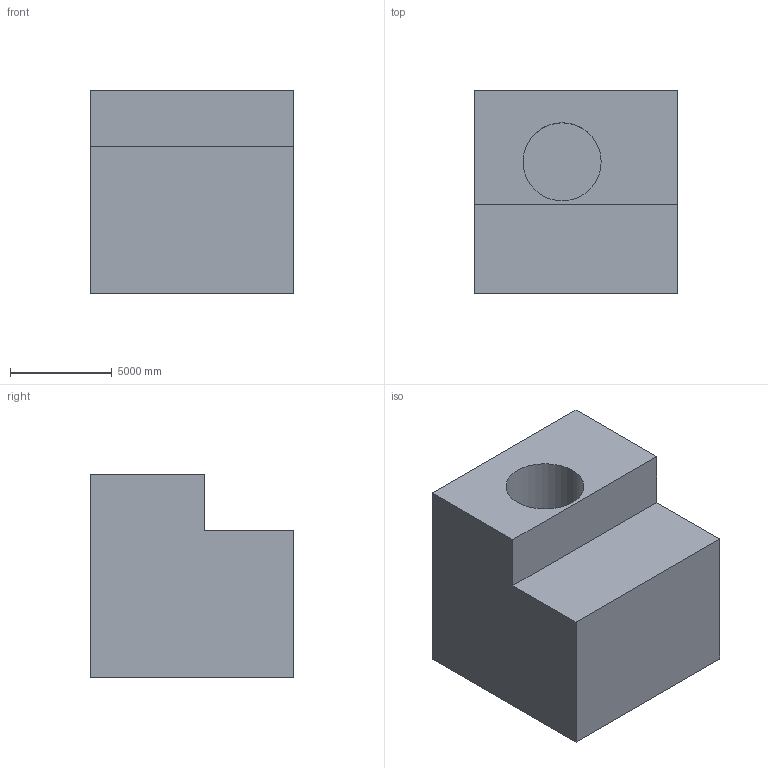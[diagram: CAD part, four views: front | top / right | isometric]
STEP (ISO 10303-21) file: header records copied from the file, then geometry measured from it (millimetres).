
FILE_DESCRIPTION (( 'STEP AP203' ), '1' );
FILE_NAME ('145.STEP', '2022-07-28T13:43:54', ( 'user' ), ( '' ), 'SwSTEP 2.0', 'SolidWorks 2021', '' );
FILE_SCHEMA (( 'CONFIG_CONTROL_DESIGN' ));
Length unit declared in the file: centimetre
Products named in the file (1): 145
Bounding box: 10000 x 10000 x 10000 mm (x, y, z)
Volume: 829252663627.5 mm3; surface area: 626951772.3 mm2
Topology: 1 solids, 1 shells, 11 faces, 24 edges, 16 vertices
Faces by surface type: plane 9, cylinder 2
Entity records: 379 total; most frequent: DIRECTION 52, CARTESIAN_POINT 52, ORIENTED_EDGE 48, EDGE_CURVE 24, LINE 20, VECTOR 20, AXIS2_PLACEMENT_3D 16, VERTEX_POINT 16
